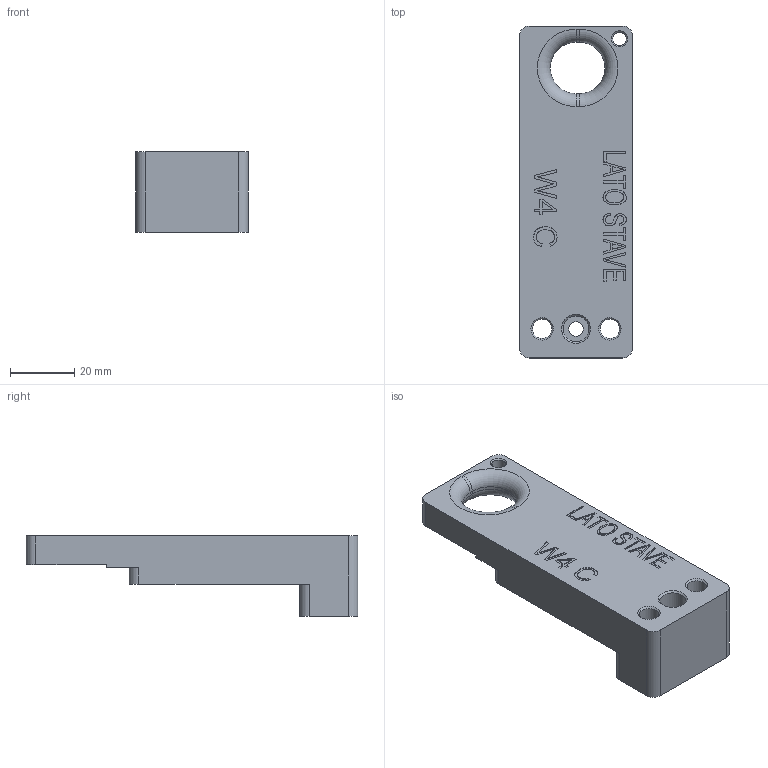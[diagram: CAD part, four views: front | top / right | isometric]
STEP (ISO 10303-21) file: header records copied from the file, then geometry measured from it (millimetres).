
FILE_DESCRIPTION(/* description */ (''),/* implementation_level */ '2;1');
FILE_NAME(/* name */ 'WHEELS-INSERT.14.stp',/* time_stamp */ '2018-09-20T14:43:48+02:00',/* author */ (''),/* organization */ (''),/* preprocessor_version */ 'ST-DEVELOPER v16.7',/* originating_system */ 'SIEMENS PLM Software NX 12.0',/* authorisation */ '');
FILE_SCHEMA (('AUTOMOTIVE_DESIGN { 1 0 10303 214 3 1 1 1 }'));
Length unit declared in the file: millimetre
Products named in the file (1): bez9B988210ctbz
Bounding box: 35 x 103 x 25 mm (x, y, z)
Volume: 49172.8 mm3; surface area: 13114.9 mm2
Topology: 1 solids, 1 shells, 166 faces, 429 edges, 281 vertices
Faces by surface type: plane 113, extrusion 22, cylinder 19, cone 8, torus 4
Full cylindrical faces by diameter (mm): 4.2 x1, 4.5 x1, 6 x2, 8 x1
Entity records: 5667 total; most frequent: CARTESIAN_POINT 1998, ORIENTED_EDGE 826, DIRECTION 567, EDGE_CURVE 413, VERTEX_POINT 278, B_SPLINE_CURVE_WITH_KNOTS 230, EDGE_LOOP 205, AXIS2_PLACEMENT_3D 195
